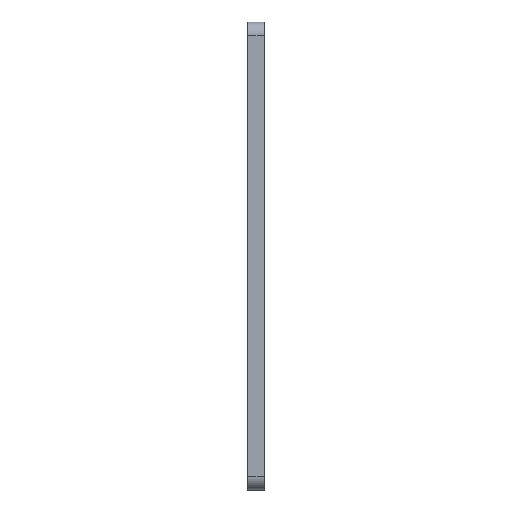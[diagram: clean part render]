
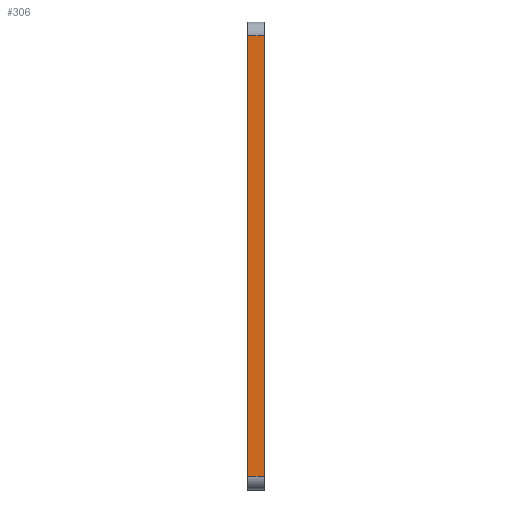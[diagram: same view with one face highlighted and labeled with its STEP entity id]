
A CAD part, left-side view. The second image highlights one B-rep face of the part: STEP entity #306.
In plain terms, the highlighted planar face has unit normal (-1, 0, 0).
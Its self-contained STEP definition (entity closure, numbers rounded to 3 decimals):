
#22 = DIRECTION ( 'NONE',  ( 0., 0., 1. ) ) ;
#56 = CARTESIAN_POINT ( 'NONE',  ( -13., 3., 70.5 ) ) ;
#95 = CARTESIAN_POINT ( 'NONE',  ( -13., 0., 70.5 ) ) ;
#113 = VECTOR ( 'NONE', #150, 1000. ) ;
#122 = CARTESIAN_POINT ( 'NONE',  ( -13., 3., -10.5 ) ) ;
#144 = ORIENTED_EDGE ( 'NONE', *, *, #274, .F. ) ;
#150 = DIRECTION ( 'NONE',  ( 0., 0., -1. ) ) ;
#157 = LINE ( 'NONE', #165, #432 ) ;
#165 = CARTESIAN_POINT ( 'NONE',  ( -13., 3., 70.5 ) ) ;
#234 = CARTESIAN_POINT ( 'NONE',  ( -13., 3., 70.5 ) ) ;
#241 = VERTEX_POINT ( 'NONE', #696 ) ;
#257 = DIRECTION ( 'NONE',  ( 0., -1., 0. ) ) ;
#260 = AXIS2_PLACEMENT_3D ( 'NONE', #234, #346, #22 ) ;
#265 = VERTEX_POINT ( 'NONE', #122 ) ;
#274 = EDGE_CURVE ( 'NONE', #428, #705, #157, .T. ) ;
#286 = FACE_OUTER_BOUND ( 'NONE', #470, .T. ) ;
#306 = ADVANCED_FACE ( 'NONE', ( #286 ), #673, .T. ) ;
#346 = DIRECTION ( 'NONE',  ( -1., 0., 0. ) ) ;
#364 = LINE ( 'NONE', #535, #113 ) ;
#396 = EDGE_CURVE ( 'NONE', #265, #241, #674, .T. ) ;
#413 = DIRECTION ( 'NONE',  ( 0., 0., -1. ) ) ;
#420 = EDGE_CURVE ( 'NONE', #428, #265, #364, .T. ) ;
#428 = VERTEX_POINT ( 'NONE', #56 ) ;
#432 = VECTOR ( 'NONE', #559, 1000. ) ;
#470 = EDGE_LOOP ( 'NONE', ( #578, #144, #538, #642 ) ) ;
#515 = LINE ( 'NONE', #95, #573 ) ;
#524 = CARTESIAN_POINT ( 'NONE',  ( -13., 0., 70.5 ) ) ;
#535 = CARTESIAN_POINT ( 'NONE',  ( -13., 3., 70.5 ) ) ;
#538 = ORIENTED_EDGE ( 'NONE', *, *, #420, .T. ) ;
#559 = DIRECTION ( 'NONE',  ( 0., -1., 0. ) ) ;
#573 = VECTOR ( 'NONE', #413, 1000. ) ;
#578 = ORIENTED_EDGE ( 'NONE', *, *, #690, .F. ) ;
#590 = CARTESIAN_POINT ( 'NONE',  ( -13., 3., -10.5 ) ) ;
#642 = ORIENTED_EDGE ( 'NONE', *, *, #396, .T. ) ;
#656 = VECTOR ( 'NONE', #257, 1000. ) ;
#673 = PLANE ( 'NONE',  #260 ) ;
#674 = LINE ( 'NONE', #590, #656 ) ;
#690 = EDGE_CURVE ( 'NONE', #705, #241, #515, .T. ) ;
#696 = CARTESIAN_POINT ( 'NONE',  ( -13., 0., -10.5 ) ) ;
#705 = VERTEX_POINT ( 'NONE', #524 ) ;
